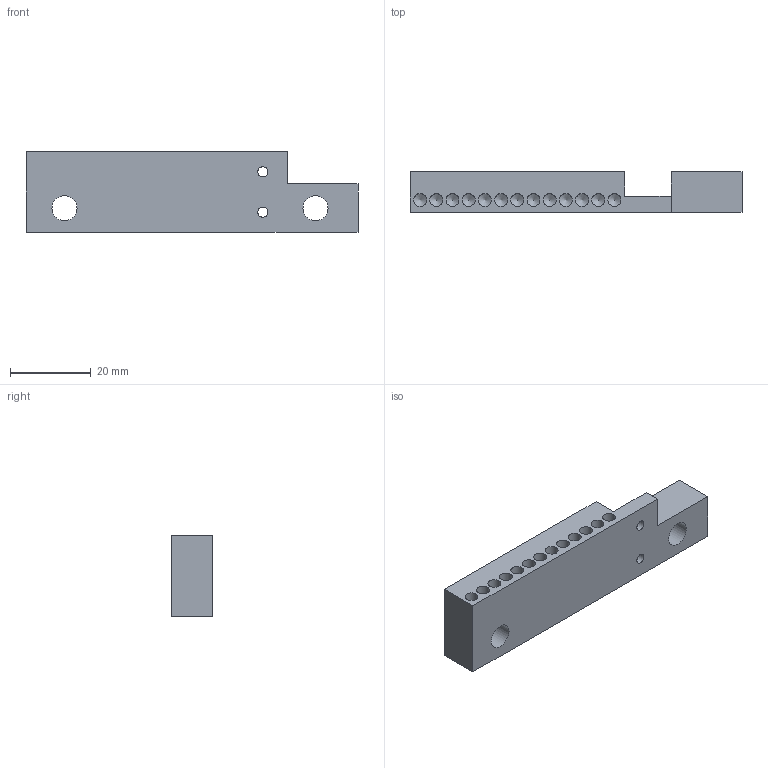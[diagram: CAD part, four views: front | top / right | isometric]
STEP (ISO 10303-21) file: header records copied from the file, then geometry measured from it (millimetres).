
FILE_DESCRIPTION(/* description */ (''),/* implementation_level */ '2;1');
FILE_NAME(/* name */ '015_GND_BLOCK.stp',/* time_stamp */ '2019-07-19T13:56:02+02:00',/* author */ (''),/* organization */ (''),/* preprocessor_version */ 'ST-DEVELOPER v16.7',/* originating_system */ 'SIEMENS PLM Software NX 12.0',/* authorisation */ '');
FILE_SCHEMA (('AUTOMOTIVE_DESIGN { 1 0 10303 214 3 1 1 1 }'));
Length unit declared in the file: millimetre
Products named in the file (1): bmas1184F1DDvyva
Bounding box: 82 x 10 x 20 mm (x, y, z)
Volume: 11421.2 mm3; surface area: 6952.5 mm2
Topology: 1 solids, 1 shells, 58 faces, 168 edges, 110 vertices
Faces by surface type: cylinder 30, cone 15, plane 13
Full cylindrical faces by diameter (mm): 2.5 x15, 3.2 x13, 6.2 x2
Entity records: 2421 total; most frequent: CARTESIAN_POINT 1107, DIRECTION 250, ORIENTED_EDGE 190, FACE_BOUND 139, EDGE_LOOP 135, AXIS2_PLACEMENT_3D 109, VERTEX_POINT 95, EDGE_CURVE 95
